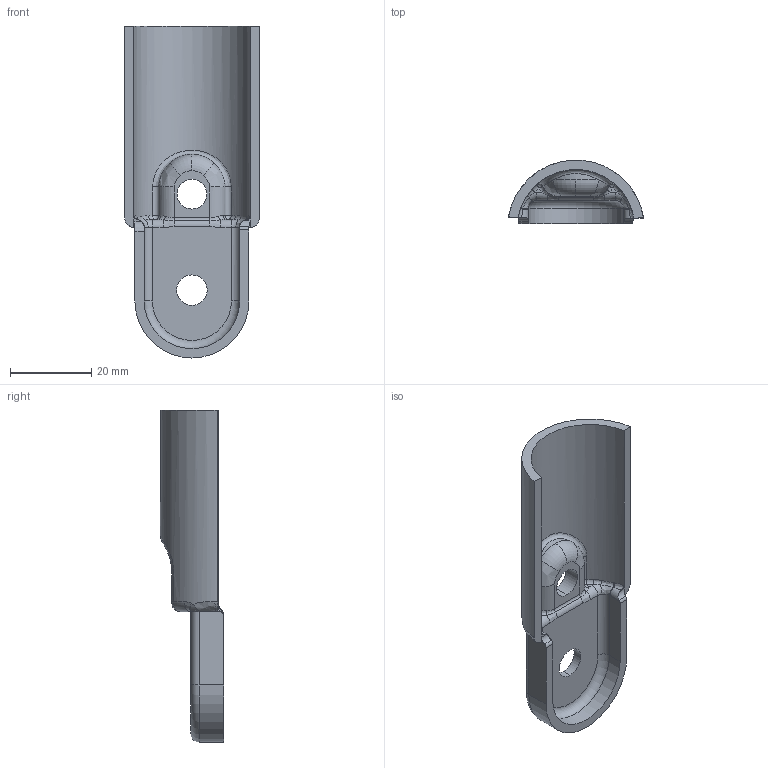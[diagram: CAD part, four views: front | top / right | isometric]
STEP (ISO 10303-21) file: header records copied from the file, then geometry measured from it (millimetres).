
FILE_DESCRIPTION (( 'STEP AP203' ), '1' );
FILE_NAME ('015.100.007B.STEP', '2016-10-24T07:28:42', ( '' ), ( '' ), 'SwSTEP 2.0', 'SolidWorks 2016', '' );
FILE_SCHEMA (( 'CONFIG_CONTROL_DESIGN' ));
Length unit declared in the file: millimetre
Products named in the file (1): 015.100.007B
Bounding box: 33.15 x 15.49 x 81.5 mm (x, y, z)
Volume: 8129.3 mm3; surface area: 7383.7 mm2
Topology: 1 solids, 1 shells, 101 faces, 253 edges, 150 vertices
Faces by surface type: cylinder 34, bspline 33, plane 18, torus 14, sphere 2
Entity records: 4382 total; most frequent: CARTESIAN_POINT 2108, ORIENTED_EDGE 494, DIRECTION 430, EDGE_CURVE 247, AXIS2_PLACEMENT_3D 182, VERTEX_POINT 148, CIRCLE 113, EDGE_LOOP 105
